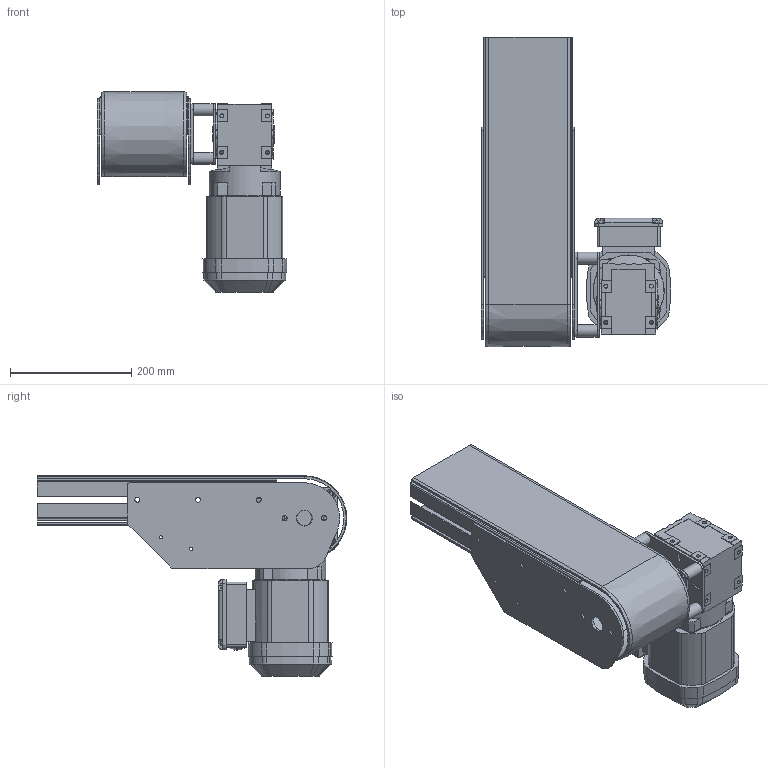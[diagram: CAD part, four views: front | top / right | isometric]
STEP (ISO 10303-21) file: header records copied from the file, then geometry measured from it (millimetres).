
FILE_DESCRIPTION((''),'2;1');
FILE_NAME('C:\Vault Klient\Projekt\Koncept konstruktion\Serie 540 Drivenhet\540-3310V.stp','2010-12-09T09:33:25',('Mathias'),(''),'Autodesk Inventor 2011','Autodesk Inventor 2011','');
FILE_SCHEMA(('AUTOMOTIVE_DESIGN { 1 0 10303 214 1 1 1 1 }'));
Length unit declared in the file: millimetre
Products named in the file (10): 540-3310V; Serie 540 Drivände; 540-1000; 140-2000; 540-3500H; 540-3500V; 500-3100; 500-3160; 500-3070; 900-4030
Assembly tree (12 placements, depth 3):
  540-3310V
    Serie 540 Drivände
      540-1000
      140-2000
      540-3500H
      540-3500V
    500-3100
    500-3160  x4
    500-3070
    900-4030
Bounding box: 311.64 x 509.97 x 330.3 mm (x, y, z)
Volume: 5941447.6 mm3; surface area: 1103176.9 mm2
Topology: 14 solids, 17 shells, 702 faces, 1878 edges, 1235 vertices
Faces by surface type: plane 426, cylinder 226, cone 32, bspline 16, sphere 2
Full cylindrical faces by diameter (mm): 5 x4, 6 x9, 6.6 x8, 6.647 x4, 8 x6, 8.2 x4, 8.5 x4, 10 x4, 20 x5, 25 x1, 26 x3, 28 x1, 30 x2, 37 x1, 117 x1
Entity records: 22281 total; most frequent: CARTESIAN_POINT 4169, DIRECTION 3606, ORIENTED_EDGE 3526, EDGE_CURVE 1763, VECTOR 1208, LINE 1208, AXIS2_PLACEMENT_3D 1199, VERTEX_POINT 1198
